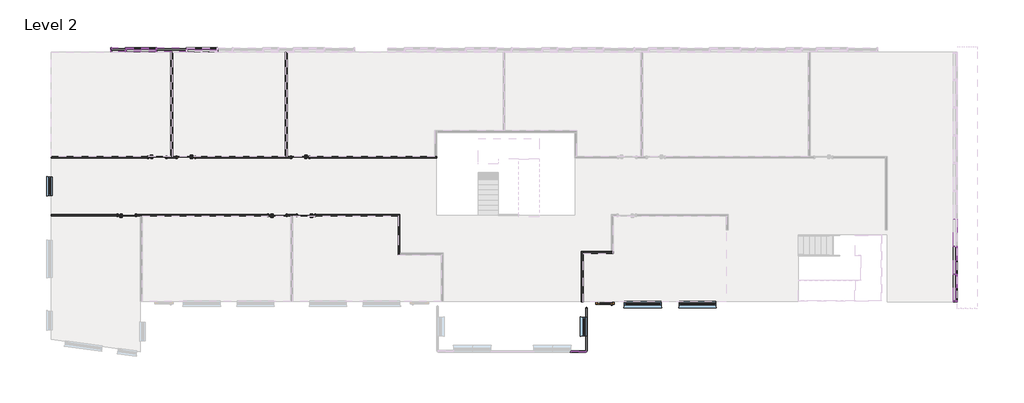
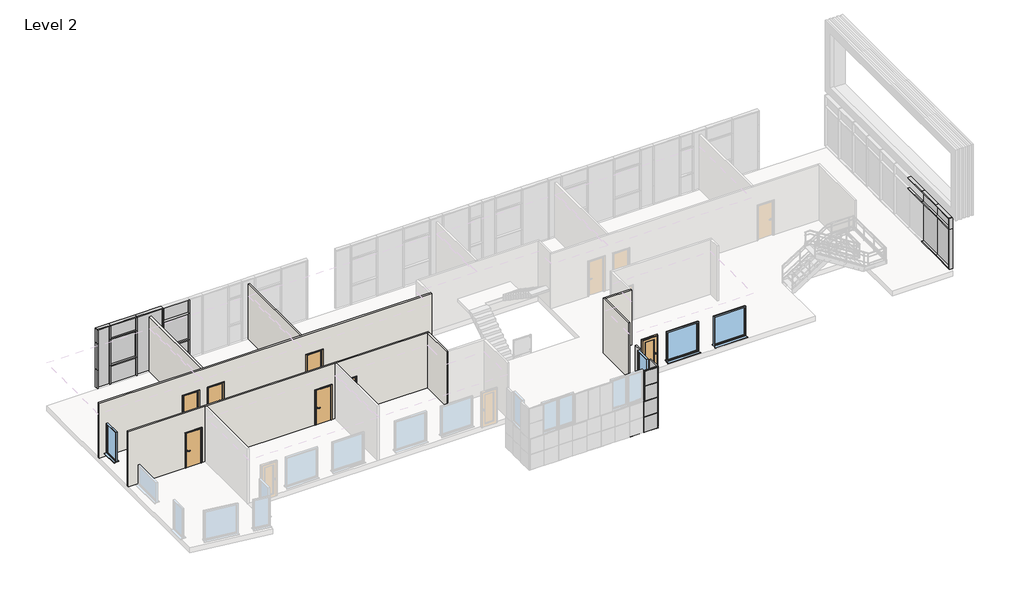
# One storey, part 2 of 7: 63 members, 24 plates, 7 doors, 7 walls, 4 windows.
"""IFC4 building model written with IfcOpenShell, lengths in millimetres."""

from ifc_helpers import new_model, si_unit, frame, origin, place, context, project, spatial, polyline, outline, extrude, faceted_brep, transform, mapped, element, save
from components import doors_extsgl_1_910x2110mm_7b8cb358, doors_intsgl_1_910x2110mm_004a08d5, doors_intsgl_1_910x2110mm_ba118736, rectangular_mullion_25x25mm_41fac21b, rectangular_mullion_25x25mm_c3a8d6dc, rectangular_mullion_25x25mm_786a5d36, rectangular_mullion_25x25mm_25fd254f, rectangular_mullion_25x25mm_00ce815f, rectangular_mullion_25x25mm_09969e68, rectangular_mullion_25x25mm_675738ca, rectangular_mullion_25x25mm_25b33903, rectangular_mullion_25x25mm_7f393c03, rectangular_mullion_25x25mm_c7fa3d61, rectangular_mullion_25x25mm_14c15364, rectangular_mullion_25x25mm_8c50469f, rectangular_mullion_25x25mm_42a5222e, rectangular_mullion_25x25mm_ea8cc668, rectangular_mullion_25x25mm_12161fae, rectangular_mullion_50x180mm_27940352, rectangular_mullion_50x180mm_f781141c, rectangular_mullion_50x180mm_fd91253e, rectangular_mullion_50x180mm_c30fec06, rectangular_mullion_50x180mm_7153291d, rectangular_mullion_50x180mm_95299f7d, rectangular_mullion_50x180mm_55b63a96, rectangular_mullion_50x180mm_b21090a6, rectangular_mullion_50x180mm_bfae1b57, rectangular_mullion_50x180mm_1c28dd9e, rectangular_mullion_50x180mm_f9fd6882, rectangular_mullion_50x180mm_3165a896, rectangular_mullion_50x180mm_dfb20434, rectangular_mullion_50x180mm_2a498405, rectangular_mullion_50x180mm_a6ccd603, curtain_panels_solid_solid_panel_green_ddb93bc4, curtain_panels_solid_solid_panel_green_a8c08363, curtain_panels_solid_solid_panel_green_b8c23153, curtain_panels_solid_solid_panel_green_e58bbc27, curtain_panels_solid_solid_panel_green_d5b4ba83, curtain_panels_solid_solid_panel_green_146c5b7a, system_panel_black_panel_33968e5e, system_panel_dark_grey_panel_4b19a003, system_panel_glazed_4915e1a0, system_panel_glazed_a3270abd, system_panel_glazed_b5799559, system_panel_glazed_a66d18e1, system_panel_glazed_1be526e0, system_panel_white_panel_6a64f577, system_panel_white_panel_659cbcf8, windows_sgl_plain_1810x1810mm_c88d1166, windows_sgl_plain_910x1810mm_eaa5caaf, windows_sgl_plain_910x1810mm_2ed797d2

model = new_model("IFC4")

# Units and contexts
model_context = context("Model", 3, world=origin())
ifc_project = project(units=[si_unit("LENGTHUNIT", "METRE", prefix="MILLI")], contexts=[model_context])

# Site, building, storey
site = spatial("IfcSite", under=ifc_project)
building = spatial("IfcBuilding", under=site)
storey = spatial("IfcBuildingStorey", under=building, Name="Level 2", Elevation=7450.0)

# Doors
placement = place(None, origin())
doors_extsgl_1_910x2110mm_shape = doors_extsgl_1_910x2110mm_7b8cb358(model_context)
element("IfcDoor", 1, ObjectType="Doors_ExtSgl_1 : 910x2110mm", at=placement, inside=storey, context=model_context, shape_type="MappedRepresentation", body=[
    mapped(doors_extsgl_1_910x2110mm_shape, transform((25785.7942367, -3410.0053409, 7450.0), x_axis=(-1.0, 0.0, 0.0), y_axis=(0.0, -1.0, 0.0), z_axis=(0.0, 0.0, 1.0))),
])
doors_intsgl_1_910x2110mm_shape = doors_intsgl_1_910x2110mm_004a08d5(model_context)
element("IfcDoor", 2, ObjectType="Doors_IntSgl_1 : 910x2110mm", at=placement, inside=storey, context=model_context, shape_type="MappedRepresentation", body=[
    mapped(doors_intsgl_1_910x2110mm_shape, transform((3778.2942367, 3837.3025486, 7450.0), x_axis=(1.0, 0.0, 0.0), y_axis=(0.0, 1.0, 0.0), z_axis=(0.0, 0.0, 1.0))),
])
element("IfcDoor", 3, ObjectType="Doors_IntSgl_1 : 910x2110mm", at=placement, inside=storey, context=model_context, shape_type="MappedRepresentation", body=[
    mapped(doors_intsgl_1_910x2110mm_shape, transform((11085.7942367, 987.4946591, 7450.0), x_axis=(-1.0, 0.0, 0.0), y_axis=(0.0, -1.0, 0.0), z_axis=(0.0, 0.0, 1.0))),
])
doors_intsgl_1_910x2110mm_2_shape = doors_intsgl_1_910x2110mm_ba118736(model_context)
element("IfcDoor", 4, ObjectType="Doors_IntSgl_1 : 910x2110mm", at=placement, inside=storey, context=model_context, shape_type="MappedRepresentation", body=[
    mapped(doors_intsgl_1_910x2110mm_2_shape, transform((5183.2942367, 3837.3025486, 7450.0), x_axis=(-1.0, 0.0, 0.0), y_axis=(0.0, -1.0, 0.0), z_axis=(0.0, 0.0, 1.0))),
])
element("IfcDoor", 5, ObjectType="Doors_IntSgl_1 : 910x2110mm", at=placement, inside=storey, context=model_context, shape_type="MappedRepresentation", body=[
    mapped(doors_intsgl_1_910x2110mm_2_shape, transform((10808.2942367, 3837.3025486, 7450.0), x_axis=(-1.0, 0.0, 0.0), y_axis=(0.0, -1.0, 0.0), z_axis=(0.0, 0.0, 1.0))),
])
element("IfcDoor", 6, ObjectType="Doors_IntSgl_1 : 910x2110mm", at=placement, inside=storey, context=model_context, shape_type="MappedRepresentation", body=[
    mapped(doors_intsgl_1_910x2110mm_2_shape, transform((9680.7942367, 987.4946591, 7450.0), x_axis=(1.0, 0.0, 0.0), y_axis=(0.0, 1.0, 0.0), z_axis=(0.0, 0.0, 1.0))),
])
element("IfcDoor", 7, ObjectType="Doors_IntSgl_1 : 910x2110mm", at=placement, inside=storey, context=model_context, shape_type="MappedRepresentation", body=[
    mapped(doors_intsgl_1_910x2110mm_2_shape, transform((2280.7942367, 987.4946591, 7450.0), x_axis=(1.0, 0.0, 0.0), y_axis=(0.0, 1.0, 0.0), z_axis=(0.0, 0.0, 1.0))),
])

# Members
rectangular_mullion_25x25mm_shape = rectangular_mullion_25x25mm_41fac21b(model_context)
element("IfcMember", 8, ObjectType="Rectangular Mullion : 25x25mm", at=placement, inside=storey, context=model_context, shape_type="MappedRepresentation", body=[
    mapped(rectangular_mullion_25x25mm_shape, transform((24873.2942367, -4250.005341, 5885.0), x_axis=(0.0, -1.0, 0.0), y_axis=(-1.0, 0.0, 0.0), z_axis=(0.0, 0.0, -1.0))),
])
element("IfcMember", 9, ObjectType="Rectangular Mullion : 25x25mm", at=placement, inside=storey, context=model_context, shape_type="MappedRepresentation", body=[
    mapped(rectangular_mullion_25x25mm_shape, transform((24873.2942367, -4977.5053408, 5885.0), x_axis=(0.0, -1.0, 0.0), y_axis=(-1.0, 0.0, 0.0), z_axis=(0.0, 0.0, -1.0))),
])
element("IfcMember", 10, ObjectType="Rectangular Mullion : 25x25mm", at=placement, inside=storey, context=model_context, shape_type="MappedRepresentation", body=[
    mapped(rectangular_mullion_25x25mm_shape, transform((24052.4609031, -5717.5053409, 5885.0), x_axis=(-1.0, 0.0, 0.0), y_axis=(0.0, 1.0, 0.0), z_axis=(0.0, 0.0, -1.0))),
])
element("IfcMember", 11, ObjectType="Rectangular Mullion : 25x25mm", at=placement, inside=storey, context=model_context, shape_type="MappedRepresentation", body=[
    mapped(rectangular_mullion_25x25mm_shape, transform((24873.2942367, -4250.005341, 6805.0), x_axis=(0.0, -1.0, 0.0), y_axis=(-1.0, 0.0, 0.0), z_axis=(0.0, 0.0, -1.0))),
])
element("IfcMember", 12, ObjectType="Rectangular Mullion : 25x25mm", at=placement, inside=storey, context=model_context, shape_type="MappedRepresentation", body=[
    mapped(rectangular_mullion_25x25mm_shape, transform((24873.2942367, -4977.5053408, 6805.0), x_axis=(0.0, -1.0, 0.0), y_axis=(-1.0, 0.0, 0.0), z_axis=(0.0, 0.0, -1.0))),
])
element("IfcMember", 13, ObjectType="Rectangular Mullion : 25x25mm", at=placement, inside=storey, context=model_context, shape_type="MappedRepresentation", body=[
    mapped(rectangular_mullion_25x25mm_shape, transform((24052.4609031, -5717.5053409, 6805.0), x_axis=(-1.0, 0.0, 0.0), y_axis=(0.0, 1.0, 0.0), z_axis=(0.0, 0.0, -1.0))),
])
rectangular_mullion_25x25mm_2_shape = rectangular_mullion_25x25mm_c3a8d6dc(model_context)
element("IfcMember", 14, ObjectType="Rectangular Mullion : 25x25mm", at=placement, inside=storey, context=model_context, shape_type="MappedRepresentation", body=[
    mapped(rectangular_mullion_25x25mm_2_shape, transform((24873.2942367, -5717.5053409, 5885.0), x_axis=(0.0, -1.0, 0.0), y_axis=(-1.0, 0.0, 0.0), z_axis=(0.0, 0.0, -1.0))),
])
element("IfcMember", 15, ObjectType="Rectangular Mullion : 25x25mm", at=placement, inside=storey, context=model_context, shape_type="MappedRepresentation", body=[
    mapped(rectangular_mullion_25x25mm_2_shape, transform((24873.2942367, -3535.0053409, 7725.0), x_axis=(0.0, 1.0, 0.0), y_axis=(-1.0, 0.0, 0.0), z_axis=(0.0, 0.0, 1.0))),
])
element("IfcMember", 16, ObjectType="Rectangular Mullion : 25x25mm", at=placement, inside=storey, context=model_context, shape_type="MappedRepresentation", body=[
    mapped(rectangular_mullion_25x25mm_2_shape, transform((24873.2942367, -5717.5053409, 7725.0), x_axis=(1.0, 0.0, 0.0), y_axis=(0.0, 1.0, 0.0), z_axis=(0.0, 0.0, 1.0))),
])
element("IfcMember", 17, ObjectType="Rectangular Mullion : 25x25mm", at=placement, inside=storey, context=model_context, shape_type="MappedRepresentation", body=[
    mapped(rectangular_mullion_25x25mm_2_shape, transform((24873.2942367, -5717.5053409, 6805.0), x_axis=(0.0, -1.0, 0.0), y_axis=(-1.0, 0.0, 0.0), z_axis=(0.0, 0.0, -1.0))),
])
element("IfcMember", 18, ObjectType="Rectangular Mullion : 25x25mm", at=placement, inside=storey, context=model_context, shape_type="MappedRepresentation", body=[
    mapped(rectangular_mullion_25x25mm_2_shape, transform((24873.2942367, -3535.0053409, 6805.0), x_axis=(0.0, 1.0, 0.0), y_axis=(-1.0, 0.0, 0.0), z_axis=(0.0, 0.0, 1.0))),
])
element("IfcMember", 19, ObjectType="Rectangular Mullion : 25x25mm", at=placement, inside=storey, context=model_context, shape_type="MappedRepresentation", body=[
    mapped(rectangular_mullion_25x25mm_2_shape, transform((24873.2942367, -5717.5053409, 6805.0), x_axis=(1.0, 0.0, 0.0), y_axis=(0.0, 1.0, 0.0), z_axis=(0.0, 0.0, 1.0))),
])
rectangular_mullion_25x25mm_3_shape = rectangular_mullion_25x25mm_786a5d36(model_context)
element("IfcMember", 20, ObjectType="Rectangular Mullion : 25x25mm", at=placement, inside=storey, context=model_context, shape_type="MappedRepresentation", body=[
    mapped(rectangular_mullion_25x25mm_3_shape, transform((24873.2942367, -4250.005341, 7750.0), x_axis=(0.0, 0.0, 1.0), y_axis=(-1.0, 0.0, 0.0), z_axis=(0.0, -1.0, 0.0))),
])
rectangular_mullion_25x25mm_4_shape = rectangular_mullion_25x25mm_25fd254f(model_context)
element("IfcMember", 21, ObjectType="Rectangular Mullion : 25x25mm", at=placement, inside=storey, context=model_context, shape_type="MappedRepresentation", body=[
    mapped(rectangular_mullion_25x25mm_4_shape, transform((24873.2942367, -4977.5053408, 7750.0), x_axis=(0.0, 0.0, 1.0), y_axis=(-1.0, 0.0, 0.0), z_axis=(0.0, -1.0, 0.0))),
])
element("IfcMember", 22, ObjectType="Rectangular Mullion : 25x25mm", at=placement, inside=storey, context=model_context, shape_type="MappedRepresentation", body=[
    mapped(rectangular_mullion_25x25mm_3_shape, transform((24873.2942367, -3535.0053409, 5860.0), x_axis=(0.0, 0.0, -1.0), y_axis=(-1.0, 0.0, 0.0), z_axis=(0.0, 1.0, 0.0))),
])
element("IfcMember", 23, ObjectType="Rectangular Mullion : 25x25mm", at=placement, inside=storey, context=model_context, shape_type="MappedRepresentation", body=[
    mapped(rectangular_mullion_25x25mm_4_shape, transform((24873.2942367, -4250.005341, 5860.0), x_axis=(0.0, 0.0, -1.0), y_axis=(-1.0, 0.0, 0.0), z_axis=(0.0, 1.0, 0.0))),
])
rectangular_mullion_25x25mm_5_shape = rectangular_mullion_25x25mm_00ce815f(model_context)
element("IfcMember", 24, ObjectType="Rectangular Mullion : 25x25mm", at=placement, inside=storey, context=model_context, shape_type="MappedRepresentation", body=[
    mapped(rectangular_mullion_25x25mm_5_shape, transform((24873.2942367, -4237.505341, 6805.0), x_axis=(0.0, 0.0, 1.0), y_axis=(-1.0, 0.0, 0.0), z_axis=(0.0, -1.0, 0.0))),
])
rectangular_mullion_25x25mm_6_shape = rectangular_mullion_25x25mm_09969e68(model_context)
element("IfcMember", 25, ObjectType="Rectangular Mullion : 25x25mm", at=placement, inside=storey, context=model_context, shape_type="MappedRepresentation", body=[
    mapped(rectangular_mullion_25x25mm_6_shape, transform((24873.2942367, -4965.0053408, 6805.0), x_axis=(0.0, 0.0, 1.0), y_axis=(-1.0, 0.0, 0.0), z_axis=(0.0, -1.0, 0.0))),
])
element("IfcMember", 26, ObjectType="Rectangular Mullion : 25x25mm", at=placement, inside=storey, context=model_context, shape_type="MappedRepresentation", body=[
    mapped(rectangular_mullion_25x25mm_6_shape, transform((24873.2942367, -5692.5053409, 6805.0), x_axis=(0.0, 0.0, 1.0), y_axis=(-1.0, 0.0, 0.0), z_axis=(0.0, -1.0, 0.0))),
])
rectangular_mullion_25x25mm_7_shape = rectangular_mullion_25x25mm_675738ca(model_context)
element("IfcMember", 27, ObjectType="Rectangular Mullion : 25x25mm", at=placement, inside=storey, context=model_context, shape_type="MappedRepresentation", body=[
    mapped(rectangular_mullion_25x25mm_7_shape, transform((24098.2942367, -5717.5053409, 7750.0), x_axis=(-1.0, 0.0, 0.0), y_axis=(0.0, 1.0, 0.0), z_axis=(0.0, 0.0, -1.0))),
])
element("IfcMember", 28, ObjectType="Rectangular Mullion : 25x25mm", at=placement, inside=storey, context=model_context, shape_type="MappedRepresentation", body=[
    mapped(rectangular_mullion_25x25mm_7_shape, transform((24873.2942367, -5717.5053409, 9535.0), x_axis=(1.0, 0.0, 0.0), y_axis=(0.0, 1.0, 0.0), z_axis=(0.0, 0.0, 1.0))),
])
element("IfcMember", 29, ObjectType="Rectangular Mullion : 25x25mm", at=placement, inside=storey, context=model_context, shape_type="MappedRepresentation", body=[
    mapped(rectangular_mullion_25x25mm_7_shape, transform((24098.2942367, -5717.5053409, 8642.5), x_axis=(-1.0, 0.0, 0.0), y_axis=(0.0, 1.0, 0.0), z_axis=(0.0, 0.0, -1.0))),
])
element("IfcMember", 30, ObjectType="Rectangular Mullion : 25x25mm", at=placement, inside=storey, context=model_context, shape_type="MappedRepresentation", body=[
    mapped(rectangular_mullion_25x25mm_7_shape, transform((24873.2942367, -5717.5053409, 8642.5), x_axis=(1.0, 0.0, 0.0), y_axis=(0.0, 1.0, 0.0), z_axis=(0.0, 0.0, 1.0))),
])
rectangular_mullion_25x25mm_8_shape = rectangular_mullion_25x25mm_25b33903(model_context)
element("IfcMember", 31, ObjectType="Rectangular Mullion : 25x25mm", at=placement, inside=storey, context=model_context, shape_type="MappedRepresentation", body=[
    mapped(rectangular_mullion_25x25mm_8_shape, transform((24098.2942367, -5717.5053409, 9560.0), x_axis=(0.0, 0.0, 1.0), y_axis=(0.0, 1.0, 0.0), z_axis=(-1.0, 0.0, 0.0))),
])
element("IfcMember", 32, ObjectType="Rectangular Mullion : 25x25mm", at=placement, inside=storey, context=model_context, shape_type="MappedRepresentation", body=[
    mapped(rectangular_mullion_25x25mm_8_shape, transform((24873.2942367, -5717.5053409, 7725.0), x_axis=(0.0, 0.0, -1.0), y_axis=(0.0, 1.0, 0.0), z_axis=(1.0, 0.0, 0.0))),
])
rectangular_mullion_25x25mm_9_shape = rectangular_mullion_25x25mm_7f393c03(model_context)
element("IfcMember", 33, ObjectType="Rectangular Mullion : 25x25mm", at=placement, inside=storey, context=model_context, shape_type="MappedRepresentation", body=[
    mapped(rectangular_mullion_25x25mm_9_shape, transform((24123.2942367, -5717.5053409, 8642.5), x_axis=(0.0, 0.0, 1.0), y_axis=(0.0, 1.0, 0.0), z_axis=(-1.0, 0.0, 0.0))),
])
rectangular_mullion_25x25mm_10_shape = rectangular_mullion_25x25mm_c7fa3d61(model_context)
element("IfcMember", 34, ObjectType="Rectangular Mullion : 25x25mm", at=placement, inside=storey, context=model_context, shape_type="MappedRepresentation", body=[
    mapped(rectangular_mullion_25x25mm_10_shape, transform((24873.2942367, -5717.5053409, 7750.0), x_axis=(0.0, 0.0, 1.0), y_axis=(-1.0, 0.0, 0.0), z_axis=(0.0, -1.0, 0.0))),
])
rectangular_mullion_25x25mm_11_shape = rectangular_mullion_25x25mm_14c15364(model_context)
element("IfcMember", 35, ObjectType="Rectangular Mullion : 25x25mm", at=placement, inside=storey, context=model_context, shape_type="MappedRepresentation", body=[
    mapped(rectangular_mullion_25x25mm_11_shape, transform((24052.4609031, -5717.5053409, 7750.0), x_axis=(0.0, 0.0, 1.0), y_axis=(0.0, 1.0, 0.0), z_axis=(-1.0, 0.0, 0.0))),
])
rectangular_mullion_25x25mm_12_shape = rectangular_mullion_25x25mm_8c50469f(model_context)
element("IfcMember", 36, ObjectType="Rectangular Mullion : 25x25mm", at=placement, inside=storey, context=model_context, shape_type="MappedRepresentation", body=[
    mapped(rectangular_mullion_25x25mm_12_shape, transform((24052.4609031, -5717.5053409, 5860.0), x_axis=(0.0, 0.0, -1.0), y_axis=(0.0, 1.0, 0.0), z_axis=(1.0, 0.0, 0.0))),
])
rectangular_mullion_25x25mm_13_shape = rectangular_mullion_25x25mm_42a5222e(model_context)
element("IfcMember", 37, ObjectType="Rectangular Mullion : 25x25mm", at=placement, inside=storey, context=model_context, shape_type="MappedRepresentation", body=[
    mapped(rectangular_mullion_25x25mm_13_shape, transform((24064.9609031, -5717.5053409, 6805.0), x_axis=(0.0, 0.0, 1.0), y_axis=(0.0, 1.0, 0.0), z_axis=(-1.0, 0.0, 0.0))),
])
rectangular_mullion_25x25mm_14_shape = rectangular_mullion_25x25mm_ea8cc668(model_context)
element("IfcMember", 38, ObjectType="Rectangular Mullion : 25x25mm", at=placement, inside=storey, context=model_context, shape_type="MappedRepresentation", body=[
    mapped(rectangular_mullion_25x25mm_14_shape, transform((24873.2942367, -5717.5053409, 5860.0), x_axis=(0.0, 0.0, -1.0), y_axis=(0.0, 1.0, 0.0), z_axis=(1.0, 0.0, 0.0))),
])
rectangular_mullion_25x25mm_15_shape = rectangular_mullion_25x25mm_12161fae(model_context)
element("IfcMember", 39, ObjectType="Rectangular Mullion : 25x25mm", at=placement, inside=storey, context=model_context, shape_type="MappedRepresentation", body=[
    mapped(rectangular_mullion_25x25mm_15_shape, transform((24873.2942367, -4977.5053408, 5860.0), x_axis=(0.0, 0.0, -1.0), y_axis=(-1.0, 0.0, 0.0), z_axis=(0.0, 1.0, 0.0))),
])
rectangular_mullion_50x180mm_shape = rectangular_mullion_50x180mm_27940352(model_context)
element("IfcMember", 40, ObjectType="Rectangular Mullion : 50x180mm", at=placement, inside=storey, context=model_context, shape_type="MappedRepresentation", body=[
    mapped(rectangular_mullion_50x180mm_shape, transform((6730.7942367, 9132.4946591, 7450.0), x_axis=(1.0, 0.0, 0.0), y_axis=(0.0, -1.0, 0.0), z_axis=(0.0, 0.0, -1.0))),
])
element("IfcMember", 41, ObjectType="Rectangular Mullion : 50x180mm", at=placement, inside=storey, context=model_context, shape_type="MappedRepresentation", body=[
    mapped(rectangular_mullion_50x180mm_shape, transform((5230.7942367, 9132.4946591, 7450.0), x_axis=(1.0, 0.0, 0.0), y_axis=(0.0, -1.0, 0.0), z_axis=(0.0, 0.0, -1.0))),
])
element("IfcMember", 42, ObjectType="Rectangular Mullion : 50x180mm", at=placement, inside=storey, context=model_context, shape_type="MappedRepresentation", body=[
    mapped(rectangular_mullion_50x180mm_shape, transform((2230.7942367, 9132.4946591, 7450.0), x_axis=(1.0, 0.0, 0.0), y_axis=(0.0, -1.0, 0.0), z_axis=(0.0, 0.0, -1.0))),
])
element("IfcMember", 43, ObjectType="Rectangular Mullion : 50x180mm", at=placement, inside=storey, context=model_context, shape_type="MappedRepresentation", body=[
    mapped(rectangular_mullion_50x180mm_shape, transform((3730.7942367, 9132.4946591, 7450.0), x_axis=(1.0, 0.0, 0.0), y_axis=(0.0, -1.0, 0.0), z_axis=(0.0, 0.0, -1.0))),
])
rectangular_mullion_50x180mm_2_shape = rectangular_mullion_50x180mm_f781141c(model_context)
element("IfcMember", 44, ObjectType="Rectangular Mullion : 50x180mm", at=placement, inside=storey, context=model_context, shape_type="MappedRepresentation", body=[
    mapped(rectangular_mullion_50x180mm_2_shape, transform((2230.7942367, 9132.4946591, 8550.0), x_axis=(1.0, 0.0, 0.0), y_axis=(0.0, -1.0, 0.0), z_axis=(0.0, 0.0, -1.0))),
])
element("IfcMember", 45, ObjectType="Rectangular Mullion : 50x180mm", at=placement, inside=storey, context=model_context, shape_type="MappedRepresentation", body=[
    mapped(rectangular_mullion_50x180mm_2_shape, transform((3730.7942367, 9132.4946591, 8550.0), x_axis=(1.0, 0.0, 0.0), y_axis=(0.0, -1.0, 0.0), z_axis=(0.0, 0.0, -1.0))),
])
element("IfcMember", 46, ObjectType="Rectangular Mullion : 50x180mm", at=placement, inside=storey, context=model_context, shape_type="MappedRepresentation", body=[
    mapped(rectangular_mullion_50x180mm_2_shape, transform((5230.7942367, 9132.4946591, 8550.0), x_axis=(1.0, 0.0, 0.0), y_axis=(0.0, -1.0, 0.0), z_axis=(0.0, 0.0, -1.0))),
])
element("IfcMember", 47, ObjectType="Rectangular Mullion : 50x180mm", at=placement, inside=storey, context=model_context, shape_type="MappedRepresentation", body=[
    mapped(rectangular_mullion_50x180mm_2_shape, transform((6730.7942367, 9132.4946591, 8550.0), x_axis=(1.0, 0.0, 0.0), y_axis=(0.0, -1.0, 0.0), z_axis=(0.0, 0.0, -1.0))),
])
rectangular_mullion_50x180mm_3_shape = rectangular_mullion_50x180mm_fd91253e(model_context)
element("IfcMember", 48, ObjectType="Rectangular Mullion : 50x180mm", at=placement, inside=storey, context=model_context, shape_type="MappedRepresentation", body=[
    mapped(rectangular_mullion_50x180mm_3_shape, transform((3705.7942367, 9132.4946591, 8550.0), x_axis=(0.0, 0.0, 1.0), y_axis=(0.0, -1.0, 0.0), z_axis=(1.0, 0.0, 0.0))),
])
element("IfcMember", 49, ObjectType="Rectangular Mullion : 50x180mm", at=placement, inside=storey, context=model_context, shape_type="MappedRepresentation", body=[
    mapped(rectangular_mullion_50x180mm_3_shape, transform((6705.7942367, 9132.4946591, 8550.0), x_axis=(0.0, 0.0, 1.0), y_axis=(0.0, -1.0, 0.0), z_axis=(1.0, 0.0, 0.0))),
])
element("IfcMember", 50, ObjectType="Rectangular Mullion : 50x180mm", at=placement, inside=storey, context=model_context, shape_type="MappedRepresentation", body=[
    mapped(rectangular_mullion_50x180mm_3_shape, transform((3705.7942367, 9132.4946591, 10150.0), x_axis=(0.0, 0.0, 1.0), y_axis=(0.0, -1.0, 0.0), z_axis=(1.0, 0.0, 0.0))),
])
rectangular_mullion_50x180mm_4_shape = rectangular_mullion_50x180mm_c30fec06(model_context)
element("IfcMember", 51, ObjectType="Rectangular Mullion : 50x180mm", at=placement, inside=storey, context=model_context, shape_type="MappedRepresentation", body=[
    mapped(rectangular_mullion_50x180mm_4_shape, transform((3730.7942367, 9132.4946591, 11000.0), x_axis=(0.0, 0.0, 1.0), y_axis=(0.0, -1.0, 0.0), z_axis=(1.0, 0.0, 0.0))),
])
element("IfcMember", 52, ObjectType="Rectangular Mullion : 50x180mm", at=placement, inside=storey, context=model_context, shape_type="MappedRepresentation", body=[
    mapped(rectangular_mullion_50x180mm_4_shape, transform((5230.7942367, 9132.4946591, 11000.0), x_axis=(0.0, 0.0, 1.0), y_axis=(0.0, -1.0, 0.0), z_axis=(1.0, 0.0, 0.0))),
])
rectangular_mullion_50x180mm_5_shape = rectangular_mullion_50x180mm_7153291d(model_context)
element("IfcMember", 53, ObjectType="Rectangular Mullion : 50x180mm", at=placement, inside=storey, context=model_context, shape_type="MappedRepresentation", body=[
    mapped(rectangular_mullion_50x180mm_5_shape, transform((1480.7942367, 9132.4946591, 8550.0), x_axis=(-1.0, 0.0, 0.0), y_axis=(0.0, -1.0, 0.0), z_axis=(0.0, 0.0, 1.0))),
])
rectangular_mullion_50x180mm_6_shape = rectangular_mullion_50x180mm_95299f7d(model_context)
element("IfcMember", 54, ObjectType="Rectangular Mullion : 50x180mm", at=placement, inside=storey, context=model_context, shape_type="MappedRepresentation", body=[
    mapped(rectangular_mullion_50x180mm_6_shape, transform((1480.7942367, 9132.4946591, 10150.0), x_axis=(-1.0, 0.0, 0.0), y_axis=(0.0, -1.0, 0.0), z_axis=(0.0, 0.0, 1.0))),
])
rectangular_mullion_50x180mm_7_shape = rectangular_mullion_50x180mm_55b63a96(model_context)
element("IfcMember", 55, ObjectType="Rectangular Mullion : 50x180mm", at=placement, inside=storey, context=model_context, shape_type="MappedRepresentation", body=[
    mapped(rectangular_mullion_50x180mm_7_shape, transform((2230.7942367, 9132.4946591, 11000.0), x_axis=(0.0, 0.0, 1.0), y_axis=(0.0, -1.0, 0.0), z_axis=(1.0, 0.0, 0.0))),
])
rectangular_mullion_50x180mm_8_shape = rectangular_mullion_50x180mm_b21090a6(model_context)
element("IfcMember", 56, ObjectType="Rectangular Mullion : 50x180mm", at=placement, inside=storey, context=model_context, shape_type="MappedRepresentation", body=[
    mapped(rectangular_mullion_50x180mm_8_shape, transform((43003.2942367, -3285.0053409, 7600.0), x_axis=(0.0, -1.0, 0.0), y_axis=(-1.0, 0.0, 0.0), z_axis=(0.0, 0.0, -1.0))),
])
rectangular_mullion_50x180mm_9_shape = rectangular_mullion_50x180mm_bfae1b57(model_context)
element("IfcMember", 57, ObjectType="Rectangular Mullion : 50x180mm", at=placement, inside=storey, context=model_context, shape_type="MappedRepresentation", body=[
    mapped(rectangular_mullion_50x180mm_9_shape, transform((6730.7942367, 9132.4946591, 10150.0), x_axis=(1.0, 0.0, 0.0), y_axis=(0.0, -1.0, 0.0), z_axis=(0.0, 0.0, -1.0))),
])
element("IfcMember", 58, ObjectType="Rectangular Mullion : 50x180mm", at=placement, inside=storey, context=model_context, shape_type="MappedRepresentation", body=[
    mapped(rectangular_mullion_50x180mm_9_shape, transform((5230.7942367, 9132.4946591, 10150.0), x_axis=(1.0, 0.0, 0.0), y_axis=(0.0, -1.0, 0.0), z_axis=(0.0, 0.0, -1.0))),
])
element("IfcMember", 59, ObjectType="Rectangular Mullion : 50x180mm", at=placement, inside=storey, context=model_context, shape_type="MappedRepresentation", body=[
    mapped(rectangular_mullion_50x180mm_9_shape, transform((2230.7942367, 9132.4946591, 10150.0), x_axis=(1.0, 0.0, 0.0), y_axis=(0.0, -1.0, 0.0), z_axis=(0.0, 0.0, -1.0))),
])
element("IfcMember", 60, ObjectType="Rectangular Mullion : 50x180mm", at=placement, inside=storey, context=model_context, shape_type="MappedRepresentation", body=[
    mapped(rectangular_mullion_50x180mm_9_shape, transform((3730.7942367, 9132.4946591, 10150.0), x_axis=(1.0, 0.0, 0.0), y_axis=(0.0, -1.0, 0.0), z_axis=(0.0, 0.0, -1.0))),
])
rectangular_mullion_50x180mm_10_shape = rectangular_mullion_50x180mm_1c28dd9e(model_context)
element("IfcMember", 61, ObjectType="Rectangular Mullion : 50x180mm", at=placement, inside=storey, context=model_context, shape_type="MappedRepresentation", body=[
    mapped(rectangular_mullion_50x180mm_10_shape, transform((1480.7942367, 9132.4946591, 10950.0), x_axis=(-1.0, 0.0, 0.0), y_axis=(0.0, -1.0, 0.0), z_axis=(0.0, 0.0, 1.0))),
])
rectangular_mullion_50x180mm_11_shape = rectangular_mullion_50x180mm_f9fd6882(model_context)
element("IfcMember", 62, ObjectType="Rectangular Mullion : 50x180mm", at=placement, inside=storey, context=model_context, shape_type="MappedRepresentation", body=[
    mapped(rectangular_mullion_50x180mm_11_shape, transform((43003.2942367, -3285.0053409, 10000.0), x_axis=(0.0, -1.0, 0.0), y_axis=(-1.0, 0.0, 0.0), z_axis=(0.0, 0.0, -1.0))),
])
rectangular_mullion_50x180mm_12_shape = rectangular_mullion_50x180mm_3165a896(model_context)
element("IfcMember", 63, ObjectType="Rectangular Mullion : 50x180mm", at=placement, inside=storey, context=model_context, shape_type="MappedRepresentation", body=[
    mapped(rectangular_mullion_50x180mm_12_shape, transform((43003.2942367, -553.338674, 10665.0), x_axis=(0.0, 0.0, 1.0), y_axis=(-1.0, 0.0, 0.0), z_axis=(0.0, -1.0, 0.0))),
])
element("IfcMember", 64, ObjectType="Rectangular Mullion : 50x180mm", at=placement, inside=storey, context=model_context, shape_type="MappedRepresentation", body=[
    mapped(rectangular_mullion_50x180mm_12_shape, transform((43003.2942367, -1919.1720073, 10665.0), x_axis=(0.0, 0.0, 1.0), y_axis=(-1.0, 0.0, 0.0), z_axis=(0.0, -1.0, 0.0))),
])
element("IfcMember", 65, ObjectType="Rectangular Mullion : 50x180mm", at=placement, inside=storey, context=model_context, shape_type="MappedRepresentation", body=[
    mapped(rectangular_mullion_50x180mm_12_shape, transform((43003.2942367, -553.338674, 7600.0), x_axis=(0.0, 0.0, -1.0), y_axis=(-1.0, 0.0, 0.0), z_axis=(0.0, 1.0, 0.0))),
])
rectangular_mullion_50x180mm_13_shape = rectangular_mullion_50x180mm_dfb20434(model_context)
element("IfcMember", 66, ObjectType="Rectangular Mullion : 50x180mm", at=placement, inside=storey, context=model_context, shape_type="MappedRepresentation", body=[
    mapped(rectangular_mullion_50x180mm_13_shape, transform((43003.2942367, -553.338674, 10000.0), x_axis=(0.0, 0.0, 1.0), y_axis=(-1.0, 0.0, 0.0), z_axis=(0.0, -1.0, 0.0))),
])
element("IfcMember", 67, ObjectType="Rectangular Mullion : 50x180mm", at=placement, inside=storey, context=model_context, shape_type="MappedRepresentation", body=[
    mapped(rectangular_mullion_50x180mm_13_shape, transform((43003.2942367, -1919.1720073, 10000.0), x_axis=(0.0, 0.0, 1.0), y_axis=(-1.0, 0.0, 0.0), z_axis=(0.0, -1.0, 0.0))),
])
rectangular_mullion_50x180mm_14_shape = rectangular_mullion_50x180mm_2a498405(model_context)
element("IfcMember", 68, ObjectType="Rectangular Mullion : 50x180mm", at=placement, inside=storey, context=model_context, shape_type="MappedRepresentation", body=[
    mapped(rectangular_mullion_50x180mm_14_shape, transform((43003.2942367, -3235.0053409, 10665.0), x_axis=(0.0, 0.0, 1.0), y_axis=(-1.0, 0.0, 0.0), z_axis=(0.0, -1.0, 0.0))),
])
element("IfcMember", 69, ObjectType="Rectangular Mullion : 50x180mm", at=placement, inside=storey, context=model_context, shape_type="MappedRepresentation", body=[
    mapped(rectangular_mullion_50x180mm_14_shape, transform((43003.2942367, -1919.1720073, 7600.0), x_axis=(0.0, 0.0, -1.0), y_axis=(-1.0, 0.0, 0.0), z_axis=(0.0, 1.0, 0.0))),
])
rectangular_mullion_50x180mm_15_shape = rectangular_mullion_50x180mm_a6ccd603(model_context)
element("IfcMember", 70, ObjectType="Rectangular Mullion : 50x180mm", at=placement, inside=storey, context=model_context, shape_type="MappedRepresentation", body=[
    mapped(rectangular_mullion_50x180mm_15_shape, transform((43003.2942367, -3235.0053409, 10000.0), x_axis=(0.0, 0.0, 1.0), y_axis=(-1.0, 0.0, 0.0), z_axis=(0.0, -1.0, 0.0))),
])

# Plates
curtain_panels_solid_solid_panel_green_shape = curtain_panels_solid_solid_panel_green_ddb93bc4(model_context)
element("IfcPlate", 71, ObjectType="Curtain_Panels_Solid : Solid_Panel_Green", at=placement, inside=storey, context=model_context, shape_type="MappedRepresentation", body=[
    mapped(curtain_panels_solid_solid_panel_green_shape, transform((24873.2942367, -3898.7553409, 5885.0), x_axis=(0.0, -1.0, 0.0), y_axis=(1.0, 0.0, 0.0), z_axis=(0.0, 0.0, 1.0))),
])
element("IfcPlate", 72, ObjectType="Curtain_Panels_Solid : Solid_Panel_Green", at=placement, inside=storey, context=model_context, shape_type="MappedRepresentation", body=[
    mapped(curtain_panels_solid_solid_panel_green_shape, transform((24873.2942367, -3898.7553409, 6817.5), x_axis=(0.0, -1.0, 0.0), y_axis=(1.0, 0.0, 0.0), z_axis=(0.0, 0.0, 1.0))),
])
curtain_panels_solid_solid_panel_green_2_shape = curtain_panels_solid_solid_panel_green_a8c08363(model_context)
element("IfcPlate", 73, ObjectType="Curtain_Panels_Solid : Solid_Panel_Green", at=placement, inside=storey, context=model_context, shape_type="MappedRepresentation", body=[
    mapped(curtain_panels_solid_solid_panel_green_2_shape, transform((24873.2942367, -4613.7553409, 5885.0), x_axis=(0.0, -1.0, 0.0), y_axis=(1.0, 0.0, 0.0), z_axis=(0.0, 0.0, 1.0))),
])
element("IfcPlate", 74, ObjectType="Curtain_Panels_Solid : Solid_Panel_Green", at=placement, inside=storey, context=model_context, shape_type="MappedRepresentation", body=[
    mapped(curtain_panels_solid_solid_panel_green_2_shape, transform((24873.2942367, -5341.2553408, 5885.0), x_axis=(0.0, -1.0, 0.0), y_axis=(1.0, 0.0, 0.0), z_axis=(0.0, 0.0, 1.0))),
])
element("IfcPlate", 75, ObjectType="Curtain_Panels_Solid : Solid_Panel_Green", at=placement, inside=storey, context=model_context, shape_type="MappedRepresentation", body=[
    mapped(curtain_panels_solid_solid_panel_green_2_shape, transform((24873.2942367, -4613.7553409, 6817.5), x_axis=(0.0, -1.0, 0.0), y_axis=(1.0, 0.0, 0.0), z_axis=(0.0, 0.0, 1.0))),
])
element("IfcPlate", 76, ObjectType="Curtain_Panels_Solid : Solid_Panel_Green", at=placement, inside=storey, context=model_context, shape_type="MappedRepresentation", body=[
    mapped(curtain_panels_solid_solid_panel_green_2_shape, transform((24873.2942367, -5341.2553408, 6817.5), x_axis=(0.0, -1.0, 0.0), y_axis=(1.0, 0.0, 0.0), z_axis=(0.0, 0.0, 1.0))),
])
curtain_panels_solid_solid_panel_green_3_shape = curtain_panels_solid_solid_panel_green_b8c23153(model_context)
element("IfcPlate", 77, ObjectType="Curtain_Panels_Solid : Solid_Panel_Green", at=placement, inside=storey, context=model_context, shape_type="MappedRepresentation", body=[
    mapped(curtain_panels_solid_solid_panel_green_3_shape, transform((24873.2942367, -5337.5053409, 7775.0), x_axis=(0.0, -1.0, 0.0), y_axis=(1.0, 0.0, 0.0), z_axis=(0.0, 0.0, 1.0))),
])
curtain_panels_solid_solid_panel_green_4_shape = curtain_panels_solid_solid_panel_green_e58bbc27(model_context)
element("IfcPlate", 78, ObjectType="Curtain_Panels_Solid : Solid_Panel_Green", at=placement, inside=storey, context=model_context, shape_type="MappedRepresentation", body=[
    mapped(curtain_panels_solid_solid_panel_green_4_shape, transform((24873.2942367, -3803.1303409, 7775.0), x_axis=(0.0, -1.0, 0.0), y_axis=(1.0, 0.0, 0.0), z_axis=(0.0, 0.0, 1.0))),
])
curtain_panels_solid_solid_panel_green_5_shape = curtain_panels_solid_solid_panel_green_d5b4ba83(model_context)
element("IfcPlate", 79, ObjectType="Curtain_Panels_Solid : Solid_Panel_Green", at=placement, inside=storey, context=model_context, shape_type="MappedRepresentation", body=[
    mapped(curtain_panels_solid_solid_panel_green_5_shape, transform((24485.7942367, -5717.5053409, 7750.0), x_axis=(-1.0, 0.0, 0.0), y_axis=(0.0, -1.0, 0.0), z_axis=(0.0, 0.0, 1.0))),
])
element("IfcPlate", 80, ObjectType="Curtain_Panels_Solid : Solid_Panel_Green", at=placement, inside=storey, context=model_context, shape_type="MappedRepresentation", body=[
    mapped(curtain_panels_solid_solid_panel_green_5_shape, transform((24485.7942367, -5717.5053409, 8655.0), x_axis=(-1.0, 0.0, 0.0), y_axis=(0.0, -1.0, 0.0), z_axis=(0.0, 0.0, 1.0))),
])
curtain_panels_solid_solid_panel_green_6_shape = curtain_panels_solid_solid_panel_green_146c5b7a(model_context)
element("IfcPlate", 81, ObjectType="Curtain_Panels_Solid : Solid_Panel_Green", at=placement, inside=storey, context=model_context, shape_type="MappedRepresentation", body=[
    mapped(curtain_panels_solid_solid_panel_green_6_shape, transform((24456.6275699, -5717.5053409, 5885.0), x_axis=(-1.0, 0.0, 0.0), y_axis=(0.0, -1.0, 0.0), z_axis=(0.0, 0.0, 1.0))),
])
element("IfcPlate", 82, ObjectType="Curtain_Panels_Solid : Solid_Panel_Green", at=placement, inside=storey, context=model_context, shape_type="MappedRepresentation", body=[
    mapped(curtain_panels_solid_solid_panel_green_6_shape, transform((24456.6275699, -5717.5053409, 6817.5), x_axis=(-1.0, 0.0, 0.0), y_axis=(0.0, -1.0, 0.0), z_axis=(0.0, 0.0, 1.0))),
])
system_panel_black_panel_shape = system_panel_black_panel_33968e5e(model_context)
element("IfcPlate", 83, ObjectType="System Panel : Black-Panel", at=placement, inside=storey, context=model_context, shape_type="MappedRepresentation", body=[
    mapped(system_panel_black_panel_shape, transform((1868.2942367, 9132.4946591, 7450.0), x_axis=(1.0, 0.0, 0.0), y_axis=(0.0, 1.0, 0.0), z_axis=(0.0, 0.0, 1.0))),
])
system_panel_dark_grey_panel_shape = system_panel_dark_grey_panel_4b19a003(model_context)
element("IfcPlate", 84, ObjectType="System Panel : Dark Grey-Panel", at=placement, inside=storey, context=model_context, shape_type="MappedRepresentation", body=[
    mapped(system_panel_dark_grey_panel_shape, transform((4480.7942367, 9132.4946591, 7450.0), x_axis=(1.0, 0.0, 0.0), y_axis=(0.0, 1.0, 0.0), z_axis=(0.0, 0.0, 1.0))),
])
system_panel_glazed_shape = system_panel_glazed_4915e1a0(model_context)
element("IfcPlate", 85, ObjectType="System Panel : Glazed", at=placement, inside=storey, context=model_context, shape_type="MappedRepresentation", body=[
    mapped(system_panel_glazed_shape, transform((5980.7942367, 9132.4946591, 8575.0), x_axis=(1.0, 0.0, 0.0), y_axis=(0.0, 1.0, 0.0), z_axis=(0.0, 0.0, 1.0))),
])
element("IfcPlate", 86, ObjectType="System Panel : Glazed", at=placement, inside=storey, context=model_context, shape_type="MappedRepresentation", body=[
    mapped(system_panel_glazed_shape, transform((2980.7942367, 9132.4946591, 8575.0), x_axis=(1.0, 0.0, 0.0), y_axis=(0.0, 1.0, 0.0), z_axis=(0.0, 0.0, 1.0))),
])
system_panel_glazed_2_shape = system_panel_glazed_a3270abd(model_context)
element("IfcPlate", 87, ObjectType="System Panel : Glazed", at=placement, inside=storey, context=model_context, shape_type="MappedRepresentation", body=[
    mapped(system_panel_glazed_2_shape, transform((43003.2942367, -2577.0886741, 7650.0), x_axis=(0.0, -1.0, 0.0), y_axis=(1.0, 0.0, 0.0), z_axis=(0.0, 0.0, 1.0))),
])
system_panel_glazed_3_shape = system_panel_glazed_b5799559(model_context)
element("IfcPlate", 88, ObjectType="System Panel : Glazed", at=placement, inside=storey, context=model_context, shape_type="MappedRepresentation", body=[
    mapped(system_panel_glazed_3_shape, transform((43003.2942367, -2577.0886741, 10025.0), x_axis=(0.0, -1.0, 0.0), y_axis=(1.0, 0.0, 0.0), z_axis=(0.0, 0.0, 1.0))),
])
system_panel_glazed_4_shape = system_panel_glazed_a66d18e1(model_context)
element("IfcPlate", 89, ObjectType="System Panel : Glazed", at=placement, inside=storey, context=model_context, shape_type="MappedRepresentation", body=[
    mapped(system_panel_glazed_4_shape, transform((43003.2942367, -1236.2553407, 7650.0), x_axis=(0.0, -1.0, 0.0), y_axis=(1.0, 0.0, 0.0), z_axis=(0.0, 0.0, 1.0))),
])
system_panel_glazed_5_shape = system_panel_glazed_1be526e0(model_context)
element("IfcPlate", 90, ObjectType="System Panel : Glazed", at=placement, inside=storey, context=model_context, shape_type="MappedRepresentation", body=[
    mapped(system_panel_glazed_5_shape, transform((43003.2942367, -1236.2553407, 10025.0), x_axis=(0.0, -1.0, 0.0), y_axis=(1.0, 0.0, 0.0), z_axis=(0.0, 0.0, 1.0))),
])
system_panel_white_panel_shape = system_panel_white_panel_6a64f577(model_context)
element("IfcPlate", 91, ObjectType="System Panel : White-Panel", at=placement, inside=storey, context=model_context, shape_type="MappedRepresentation", body=[
    mapped(system_panel_white_panel_shape, transform((5980.7942367, 9132.4946591, 7450.0), x_axis=(1.0, 0.0, 0.0), y_axis=(0.0, 1.0, 0.0), z_axis=(0.0, 0.0, 1.0))),
])
element("IfcPlate", 92, ObjectType="System Panel : White-Panel", at=placement, inside=storey, context=model_context, shape_type="MappedRepresentation", body=[
    mapped(system_panel_white_panel_shape, transform((2980.7942367, 9132.4946591, 7450.0), x_axis=(1.0, 0.0, 0.0), y_axis=(0.0, 1.0, 0.0), z_axis=(0.0, 0.0, 1.0))),
])
system_panel_white_panel_2_shape = system_panel_white_panel_659cbcf8(model_context)
element("IfcPlate", 93, ObjectType="System Panel : White-Panel", at=placement, inside=storey, context=model_context, shape_type="MappedRepresentation", body=[
    mapped(system_panel_white_panel_2_shape, transform((5980.7942367, 9132.4946591, 10175.0), x_axis=(1.0, 0.0, 0.0), y_axis=(0.0, 1.0, 0.0), z_axis=(0.0, 0.0, 1.0))),
])
element("IfcPlate", 94, ObjectType="System Panel : White-Panel", at=placement, inside=storey, context=model_context, shape_type="MappedRepresentation", body=[
    mapped(system_panel_white_panel_2_shape, transform((2980.7942367, 9132.4946591, 10175.0), x_axis=(1.0, 0.0, 0.0), y_axis=(0.0, 1.0, 0.0), z_axis=(0.0, 0.0, 1.0))),
])

# Walls
element("IfcWall", 95, ObjectType="Wall-Partn_12P-70MStd-12P", at=placement, inside=storey, context=model_context, shape_type="SweptSolid", body=[
    extrude(outline(polyline([(4528.2942367, 9007.4946591), (4528.2942367, 3884.8025486), (4433.2942367, 3884.8025486), (4433.2942367, 9007.4946591), (4528.2942367, 9007.4946591)])), frame((0.0, 0.0, 7450.0), z_axis=(0.0, 0.0, 1.0), x_axis=(1.0, 0.0, 0.0)), (0.0, 0.0, 1.0), 3315.0),
])
element("IfcWall", 96, ObjectType="Wall-Partn_12P-70MStd-12P", at=placement, inside=storey, context=model_context, shape_type="SweptSolid", body=[
    extrude(outline(polyline([(10153.2942367, 9007.4946591), (10153.2942367, 3884.8025486), (10058.2942367, 3884.8025486), (10058.2942367, 9007.4946591), (10153.2942367, 9007.4946591)])), frame((0.0, 0.0, 7450.0), z_axis=(0.0, 0.0, 1.0), x_axis=(1.0, 0.0, 0.0)), (0.0, 0.0, 1.0), 3315.0),
])
element("IfcWall", 97, ObjectType="Wall-Partn_12P-70MStd-12P", at=placement, inside=storey, context=model_context, shape_type="Brep", body=[
    faceted_brep([(-1429.2223222, 3884.8025486, 10765.0), (4433.2942367, 3884.8025486, 10765.0), (4528.2942367, 3884.8025486, 10765.0), (10058.2942367, 3884.8025486, 10765.0), (10153.2942367, 3884.8025486, 10765.0), (17410.7942367, 3884.8025486, 10765.0), (17505.7942367, 3884.8025486, 10765.0), (17505.7942367, 3884.8025486, 7450.0), (17410.7942367, 3884.8025486, 7450.0), (11263.2942367, 3884.8025486, 7450.0), (11263.2942367, 3884.8025486, 9560.0), (10353.2942367, 3884.8025486, 9560.0), (10353.2942367, 3884.8025486, 7450.0), (10153.2942367, 3884.8025486, 7450.0), (10058.2942367, 3884.8025486, 7450.0), (5638.2942367, 3884.8025486, 7450.0), (5638.2942367, 3884.8025486, 9560.0), (4728.2942367, 3884.8025486, 9560.0), (4728.2942367, 3884.8025486, 7450.0), (4528.2942367, 3884.8025486, 7450.0), (4433.2942367, 3884.8025486, 7450.0), (4233.2942367, 3884.8025486, 7450.0), (4233.2942367, 3884.8025486, 9560.0), (3323.2942367, 3884.8025486, 9560.0), (3323.2942367, 3884.8025486, 7450.0), (-1429.2223222, 3884.8025486, 7450.0), (17505.7942367, 3789.8025486, 10765.0), (-1429.2223222, 3789.8025486, 10765.0), (-1429.2223222, 3789.8025486, 7450.0), (3323.2942367, 3789.8025486, 7450.0), (3323.2942367, 3789.8025486, 9560.0), (4233.2942367, 3789.8025486, 9560.0), (4233.2942367, 3789.8025486, 7450.0), (4728.2942367, 3789.8025486, 7450.0), (4728.2942367, 3789.8025486, 9560.0), (5638.2942367, 3789.8025486, 9560.0), (5638.2942367, 3789.8025486, 7450.0), (10353.2942367, 3789.8025486, 7450.0), (10353.2942367, 3789.8025486, 9560.0), (11263.2942367, 3789.8025486, 9560.0), (11263.2942367, 3789.8025486, 7450.0), (17505.7942367, 3789.8025486, 7450.0)], [[[0, 1, 2, 3, 4, 5, 6, 7, 8, 9, 10, 11, 12, 13, 14, 15, 16, 17, 18, 19, 20, 21, 22, 23, 24, 25]], [[26, 27, 28, 29, 30, 31, 32, 33, 34, 35, 36, 37, 38, 39, 40, 41]], [[7, 41, 40, 9, 8]], [[25, 24, 29, 28]], [[32, 21, 20, 19, 18, 33]], [[36, 15, 14, 13, 12, 37]], [[6, 5, 4, 3, 2, 1, 0, 27, 26]], [[7, 6, 26, 41]], [[31, 22, 21, 32]], [[22, 31, 30, 23]], [[23, 30, 29, 24]], [[17, 34, 33, 18]], [[34, 17, 16, 35]], [[35, 16, 15, 36]], [[11, 38, 37, 12]], [[38, 11, 10, 39]], [[39, 10, 9, 40]], [[0, 25, 28, 27]]]),
])
element("IfcWall", 98, ObjectType="Wall-Partn_12P-70MStd-12P", at=placement, inside=storey, context=model_context, shape_type="Brep", body=[
    faceted_brep([(15705.7942367, 939.9946591, 10765.0), (15610.7942367, 939.9946591, 10765.0), (10430.7942367, 939.9946591, 10765.0), (10335.7942367, 939.9946591, 10765.0), (3030.7942367, 939.9946591, 10765.0), (2935.7942367, 939.9946591, 10765.0), (-1429.2223222, 939.9946591, 10765.0), (-1429.2223222, 939.9946591, 7450.0), (1825.7942367, 939.9946591, 7450.0), (1825.7942367, 939.9946591, 9560.0), (2735.7942367, 939.9946591, 9560.0), (2735.7942367, 939.9946591, 7450.0), (2935.7942367, 939.9946591, 7450.0), (3030.7942367, 939.9946591, 7450.0), (9225.7942367, 939.9946591, 7450.0), (9225.7942367, 939.9946591, 9560.0), (10135.7942367, 939.9946591, 9560.0), (10135.7942367, 939.9946591, 7450.0), (10335.7942367, 939.9946591, 7450.0), (10430.7942367, 939.9946591, 7450.0), (10630.7942367, 939.9946591, 7450.0), (10630.7942367, 939.9946591, 9560.0), (11540.7942367, 939.9946591, 9560.0), (11540.7942367, 939.9946591, 7450.0), (15610.7942367, 939.9946591, 7450.0), (15705.7942367, 939.9946591, 7450.0), (-1429.2223222, 1034.9946591, 10765.0), (15705.7942367, 1034.9946591, 10765.0), (15705.7942367, 1034.9946591, 7450.0), (11540.7942367, 1034.9946591, 7450.0), (11540.7942367, 1034.9946591, 9560.0), (10630.7942367, 1034.9946591, 9560.0), (10630.7942367, 1034.9946591, 7450.0), (10135.7942367, 1034.9946591, 7450.0), (10135.7942367, 1034.9946591, 9560.0), (9225.7942367, 1034.9946591, 9560.0), (9225.7942367, 1034.9946591, 7450.0), (2735.7942367, 1034.9946591, 7450.0), (2735.7942367, 1034.9946591, 9560.0), (1825.7942367, 1034.9946591, 9560.0), (1825.7942367, 1034.9946591, 7450.0), (-1429.2223222, 1034.9946591, 7450.0)], [[[0, 1, 2, 3, 4, 5, 6, 7, 8, 9, 10, 11, 12, 13, 14, 15, 16, 17, 18, 19, 20, 21, 22, 23, 24, 25]], [[26, 27, 28, 29, 30, 31, 32, 33, 34, 35, 36, 37, 38, 39, 40, 41]], [[28, 25, 24, 23, 29]], [[32, 20, 19, 18, 17, 33]], [[36, 14, 13, 12, 11, 37]], [[7, 41, 40, 8]], [[6, 5, 4, 3, 2, 1, 0, 27, 26]], [[0, 25, 28, 27]], [[31, 21, 20, 32]], [[21, 31, 30, 22]], [[22, 30, 29, 23]], [[16, 34, 33, 17]], [[34, 16, 15, 35]], [[35, 15, 14, 36]], [[7, 6, 26, 41]], [[10, 38, 37, 11]], [[38, 10, 9, 39]], [[39, 9, 8, 40]]]),
])
element("IfcWall", 99, ObjectType="Wall-Partn_12P-70MStd-12P", at=placement, inside=storey, context=model_context, shape_type="Brep", body=[
    faceted_brep([(15610.7942367, 939.9946591, 7450.0), (15610.7942367, -955.0053409, 7450.0), (15610.7942367, -955.0053409, 10765.0), (15610.7942367, 939.9946591, 10765.0), (15705.7942367, 939.9946591, 7450.0), (15705.7942367, 939.9946591, 10765.0), (15705.7942367, -860.0053409, 10765.0), (15705.7942367, -955.0053409, 10765.0), (15705.7942367, -955.0053409, 7450.0), (15705.7942367, -860.0053409, 7450.0)], [[[0, 1, 2, 3]], [[4, 5, 6, 7, 8, 9]], [[1, 0, 4, 9, 8]], [[3, 2, 7, 6, 5]], [[0, 3, 5, 4]], [[2, 1, 8, 7]]]),
])
element("IfcWall", 100, ObjectType="Wall-Partn_12P-70MStd-12P", at=placement, inside=storey, context=model_context, shape_type="Brep", body=[
    faceted_brep([(24710.7942367, -3285.0053409, 7450.0), (24710.7942367, -895.6472731, 7450.0), (24710.7942367, -800.6472731, 7450.0), (24710.7942367, -800.6472731, 10765.0), (24710.7942367, -895.6472731, 10765.0), (24710.7942367, -3285.0053409, 10765.0), (24615.7942367, -3285.0053409, 7450.0), (24615.7942367, -3285.0053409, 10765.0), (24615.7942367, -800.6472731, 10765.0), (24615.7942367, -800.6472731, 7450.0)], [[[0, 1, 2, 3, 4, 5]], [[6, 7, 8, 9]], [[2, 1, 0, 6, 9]], [[5, 4, 3, 8, 7]], [[3, 2, 9, 8]], [[0, 5, 7, 6]]]),
])
element("IfcWall", 101, ObjectType="Wall-Partn_12P-70MStd-12P", at=placement, inside=storey, context=model_context, shape_type="Brep", body=[
    faceted_brep([(24710.7942367, -895.6472731, 7450.0), (26193.2942367, -895.6472731, 7450.0), (26193.2942367, -895.6472731, 10765.0), (24710.7942367, -895.6472731, 10765.0), (24710.7942367, -800.6472731, 7450.0), (24710.7942367, -800.6472731, 10765.0), (26098.2942367, -800.6472731, 10765.0), (26193.2942367, -800.6472731, 10765.0), (26193.2942367, -800.6472731, 7450.0), (26098.2942367, -800.6472731, 7450.0)], [[[0, 1, 2, 3]], [[4, 5, 6, 7, 8, 9]], [[1, 0, 4, 9, 8]], [[3, 2, 7, 6, 5]], [[2, 1, 8, 7]], [[0, 3, 5, 4]]]),
])

# Windows
windows_sgl_plain_1810x1810mm_shape = windows_sgl_plain_1810x1810mm_c88d1166(model_context)
element("IfcWindow", 102, ObjectType="Windows_Sgl_Plain : 1810x1810mm", at=placement, inside=storey, context=model_context, shape_type="MappedRepresentation", body=[
    mapped(windows_sgl_plain_1810x1810mm_shape, transform((30331.4942371, -3418.4619087, 7450.0), x_axis=(-1.0, 0.0, 0.0), y_axis=(0.0, -1.0, 0.0), z_axis=(0.0, 0.0, 1.0))),
])
element("IfcWindow", 103, ObjectType="Windows_Sgl_Plain : 1810x1810mm", at=placement, inside=storey, context=model_context, shape_type="MappedRepresentation", body=[
    mapped(windows_sgl_plain_1810x1810mm_shape, transform((27645.7942367, -3418.4619087, 7450.0), x_axis=(-1.0, 0.0, 0.0), y_axis=(0.0, -1.0, 0.0), z_axis=(0.0, 0.0, 1.0))),
])
windows_sgl_plain_910x1810mm_shape = windows_sgl_plain_910x1810mm_eaa5caaf(model_context)
element("IfcWindow", 104, ObjectType="Windows_Sgl_Plain : 910x1810mm", at=placement, inside=storey, context=model_context, shape_type="MappedRepresentation", body=[
    mapped(windows_sgl_plain_910x1810mm_shape, transform((24714.8376688, -4501.2553409, 7450.0), x_axis=(0.0, -1.0, 0.0), y_axis=(1.0, 0.0, 0.0), z_axis=(0.0, 0.0, 1.0))),
])
windows_sgl_plain_910x1810mm_2_shape = windows_sgl_plain_910x1810mm_2ed797d2(model_context)
element("IfcWindow", 105, ObjectType="Windows_Sgl_Plain : 910x1810mm", at=placement, inside=storey, context=model_context, shape_type="MappedRepresentation", body=[
    mapped(windows_sgl_plain_910x1810mm_2_shape, transform((-1545.17889, 2412.4025486, 8050.0), x_axis=(0.0, -1.0, 0.0), y_axis=(1.0, 0.0, 0.0), z_axis=(0.0, 0.0, 1.0))),
])

save(model, "model.ifc")
